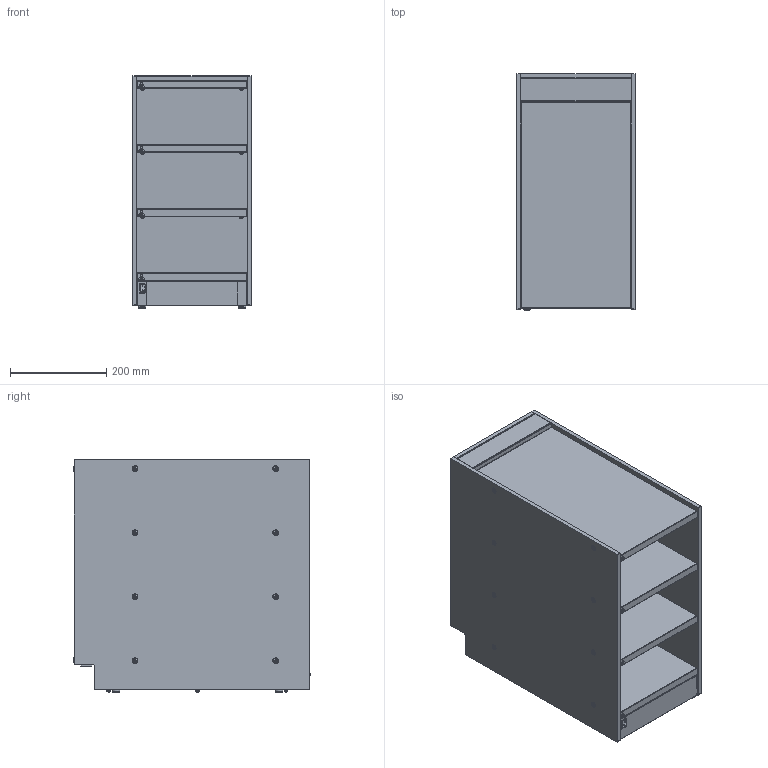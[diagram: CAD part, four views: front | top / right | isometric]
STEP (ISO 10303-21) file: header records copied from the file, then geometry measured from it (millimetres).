
FILE_DESCRIPTION(/* description */ ('Unknown'),/* implementation_level */ '2;1');
FILE_NAME(/* name */ 'Tassenwärmer_BW4(c)',/* time_stamp */ '2019-09-02T12:49:11+02:00',/* author */ ('Unknown'),/* organization */ ('Unknown'),/* preprocessor_version */ 'ST-DEVELOPER v16.7',/* originating_system */ 'DEX',/* authorisation */ $);
FILE_SCHEMA (('AUTOMOTIVE_DESIGN {1 0 10303 214 3 1 1}'));
Length unit declared in the file: millimetre
Products named in the file (1): Tassenwärmer_BW4(c)
Bounding box: 249.33 x 493.77 x 483.3 mm (x, y, z)
Surface area: 2324650.6 mm2 (no closed solid volume)
Topology: 0 solids, 180 shells, 841 faces, 3460 edges, 2615 vertices
Faces by surface type: plane 522, cylinder 207, torus 72, cone 40
Full cylindrical faces by diameter (mm): 4 x24, 6 x40, 8 x12, 16 x4
Entity records: 36201 total; most frequent: CARTESIAN_POINT 7793, DIRECTION 5553, ORIENTED_EDGE 4565, EDGE_CURVE 3208, VERTEX_POINT 2551, AXIS2_PLACEMENT_3D 1889, LINE 1775, VECTOR 1775
